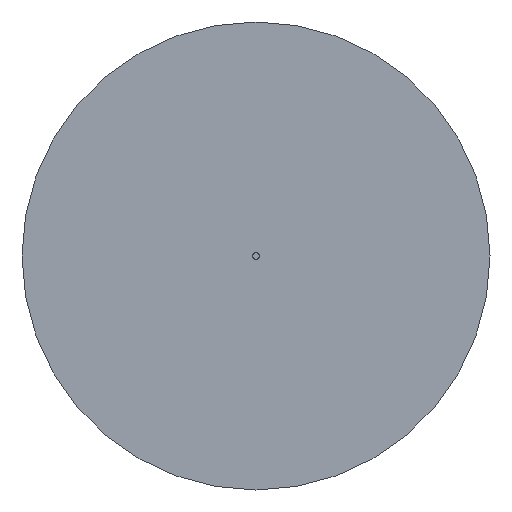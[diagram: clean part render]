
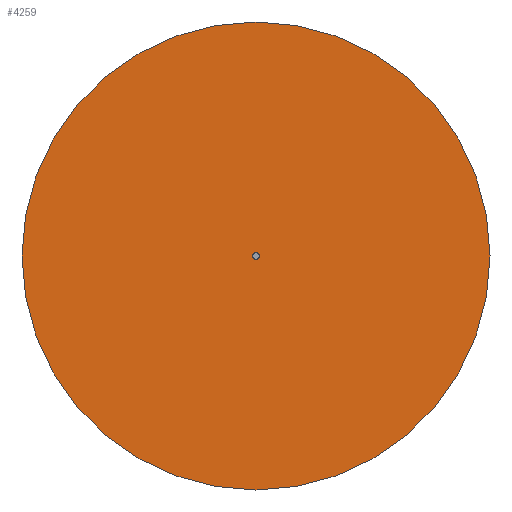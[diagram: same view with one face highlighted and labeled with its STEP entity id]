
A CAD part, front view. The second image highlights one B-rep face of the part: STEP entity #4259.
In plain terms, the highlighted planar face has unit normal (0, -1, 0).
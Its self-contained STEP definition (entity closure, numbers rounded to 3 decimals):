
#3015=CARTESIAN_POINT('',(70.,-21.5,0.));
#3016=VERTEX_POINT('',#3015);
#3032=CARTESIAN_POINT('',(-70.,-21.5,0.));
#3033=VERTEX_POINT('',#3032);
#3040=CARTESIAN_POINT('',(0.0,-21.5,0.));
#3041=DIRECTION('',(0.0,-1.0,0.0));
#3042=DIRECTION('',(1.0,0.0,0.0));
#3043=AXIS2_PLACEMENT_3D('',#3040,#3041,#3042);
#3044=CIRCLE('',#3043,70.);
#3045=EDGE_CURVE('',#3016,#3033,#3044,.T.);
#3625=CARTESIAN_POINT('',(1.094,-21.5,0.));
#3626=VERTEX_POINT('',#3625);
#3641=CARTESIAN_POINT('',(-1.094,-21.5,0.));
#3642=VERTEX_POINT('',#3641);
#3649=CARTESIAN_POINT('',(0.0,-21.5,0.));
#3650=DIRECTION('',(0.0,-1.0,0.0));
#3651=DIRECTION('',(1.0,0.0,0.0));
#3652=AXIS2_PLACEMENT_3D('',#3649,#3650,#3651);
#3653=CIRCLE('',#3652,1.094);
#3654=EDGE_CURVE('',#3642,#3626,#3653,.T.);
#3873=CARTESIAN_POINT('',(0.0,-21.5,0.));
#3874=DIRECTION('',(0.0,-1.0,0.0));
#3875=DIRECTION('',(1.0,0.0,0.0));
#3876=AXIS2_PLACEMENT_3D('',#3873,#3874,#3875);
#3877=CIRCLE('',#3876,1.094);
#3878=EDGE_CURVE('',#3626,#3642,#3877,.T.);
#4234=CARTESIAN_POINT('',(0.0,-21.5,0.));
#4235=DIRECTION('',(0.0,-1.0,0.0));
#4236=DIRECTION('',(1.0,0.0,0.0));
#4237=AXIS2_PLACEMENT_3D('',#4234,#4235,#4236);
#4238=CIRCLE('',#4237,70.);
#4239=EDGE_CURVE('',#3033,#3016,#4238,.T.);
#4246=CARTESIAN_POINT('',(35.547,-21.5,0.));
#4247=DIRECTION('',(0.0,-1.0,0.0));
#4248=DIRECTION('',(0.0,0.0,-1.0));
#4249=AXIS2_PLACEMENT_3D('',#4246,#4247,#4248);
#4250=PLANE('',#4249);
#4251=ORIENTED_EDGE('',*,*,#3045,.T.);
#4252=ORIENTED_EDGE('',*,*,#4239,.T.);
#4253=EDGE_LOOP('',(#4251,#4252));
#4254=FACE_OUTER_BOUND('',#4253,.T.);
#4255=ORIENTED_EDGE('',*,*,#3878,.F.);
#4256=ORIENTED_EDGE('',*,*,#3654,.F.);
#4257=EDGE_LOOP('',(#4255,#4256));
#4258=FACE_BOUND('',#4257,.T.);
#4259=ADVANCED_FACE('',(#4254,#4258),#4250,.T.);
